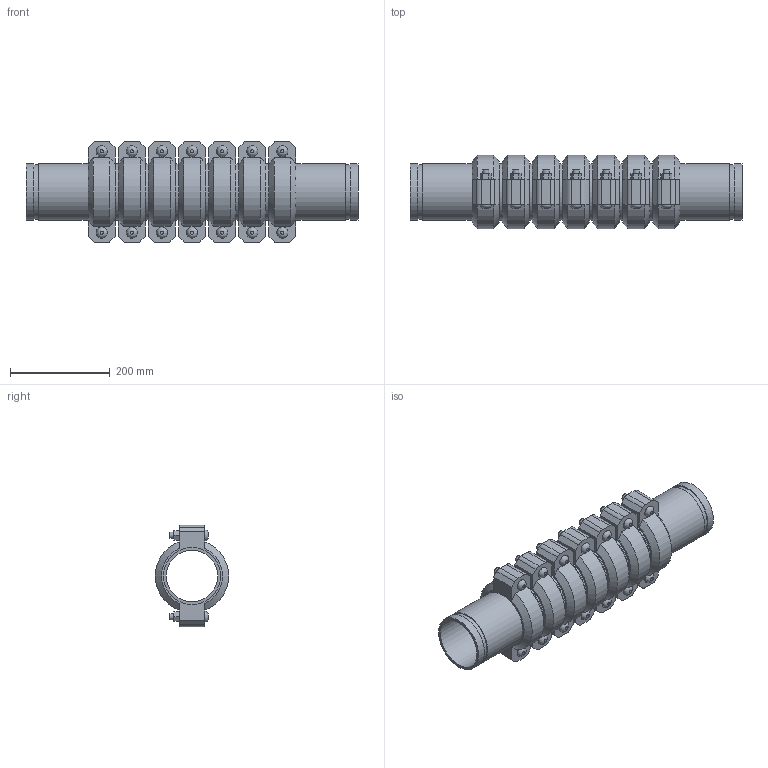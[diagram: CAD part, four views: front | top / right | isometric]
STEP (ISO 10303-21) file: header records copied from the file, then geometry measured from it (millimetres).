
FILE_DESCRIPTION(/* description */ ('VIC SS EXPANSION JOINT 7 COUPLINGS COMPRESSED STYLE 155P (OGS) (POTABLE WATER) ','CAx-IF Rec.Pracs.---Representation and Presentation of Product Manufacturing Information (PMI)---4.0---2014-10-13'),/* implementation_level */ '2;1');
FILE_NAME(/* name */ 'C:\Users\kkamble\AppData\Roaming\Autodesk\ApplicationPlugins\Victaulic.Temp\A968\Victaulic_SS_Expansion Joint_Compressed_7 Couplings_Style 155P (OGS)-Potable Water_7 Coup_Comp_4 (100).stp',/* time_stamp */ '2021-07-16T17:16:03+06:00',/* author */ ('kkamble'),/* organization */ ('Victaulic'),/* preprocessor_version */ 'ST-DEVELOPER v17.2',/* originating_system */ 'Autodesk Inventor 2019',/* authorisation */ '');
FILE_SCHEMA (('AP242_MANAGED_MODEL_BASED_3D_ENGINEERING_MIM_LF { 1 0 10303 442 1 1 4 }'));
Length unit declared in the file: inch
Products named in the file (4): 155P-04.0; Nipple-04.0; Nipple-04.0_1; 075-04.0
Assembly tree (15 placements, depth 2):
  155P-04.0
    Nipple-04.0  x2
    Nipple-04.0_1  x6
    075-04.0  x7
Bounding box: 666.75 x 147.32 x 203.96 mm (x, y, z)
Volume: 4423564.1 mm3; surface area: 1038048.3 mm2
Topology: 15 solids, 29 shells, 467 faces, 1129 edges, 794 vertices
Faces by surface type: plane 286, cylinder 139, cone 28, bspline 14
Full cylindrical faces by diameter (mm): 12.7 x28, 14.605 x14, 103.988 x8, 110.084 x16, 114.3 x31
Entity records: 2721 total; most frequent: CARTESIAN_POINT 485, DIRECTION 455, ORIENTED_EDGE 374, EDGE_CURVE 187, AXIS2_PLACEMENT_3D 182, VERTEX_POINT 134, EDGE_LOOP 101, LINE 91
